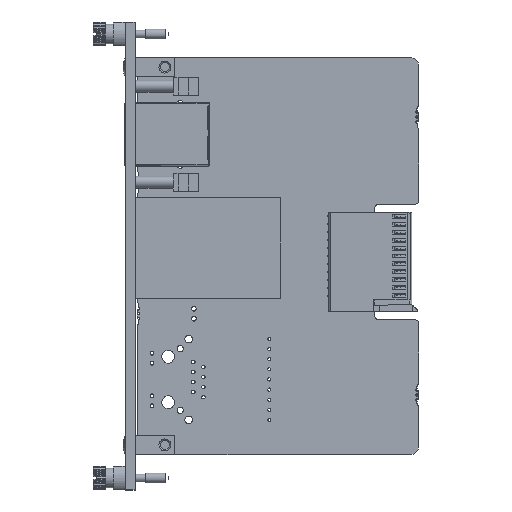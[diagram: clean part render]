
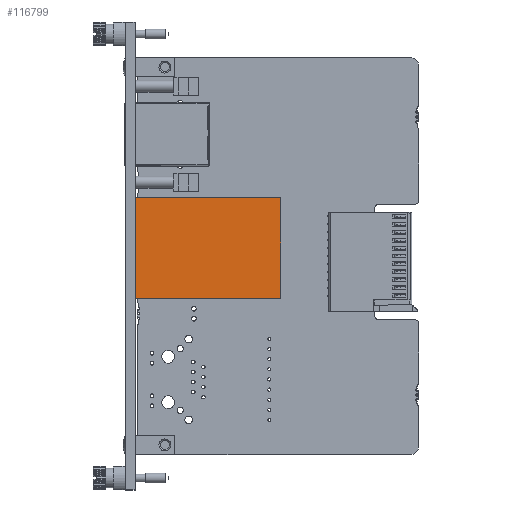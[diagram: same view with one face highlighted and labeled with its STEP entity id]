
A CAD part, top view. The second image highlights one B-rep face of the part: STEP entity #116799.
In plain terms, the highlighted planar face has unit normal (0, 0, 1).
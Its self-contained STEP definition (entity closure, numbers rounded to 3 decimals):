
#2264=PLANE('',#124589);
#7077=FACE_OUTER_BOUND('',#13235,.T.);
#13235=EDGE_LOOP('',(#86968,#86969,#86970,#86971));
#25315=LINE('',#178645,#37528);
#25318=LINE('',#178651,#37531);
#25321=LINE('',#178656,#37534);
#25326=LINE('',#178663,#37539);
#37528=VECTOR('',#143050,10.);
#37531=VECTOR('',#143055,10.);
#37534=VECTOR('',#143060,10.);
#37539=VECTOR('',#143067,10.);
#50385=VERTEX_POINT('',#178642);
#50386=VERTEX_POINT('',#178644);
#50388=VERTEX_POINT('',#178650);
#50389=VERTEX_POINT('',#178655);
#63639=EDGE_CURVE('',#50386,#50385,#25315,.T.);
#63642=EDGE_CURVE('',#50388,#50386,#25318,.T.);
#63645=EDGE_CURVE('',#50389,#50388,#25321,.T.);
#63650=EDGE_CURVE('',#50385,#50389,#25326,.T.);
#86968=ORIENTED_EDGE('',*,*,#63650,.T.);
#86969=ORIENTED_EDGE('',*,*,#63645,.T.);
#86970=ORIENTED_EDGE('',*,*,#63642,.T.);
#86971=ORIENTED_EDGE('',*,*,#63639,.T.);
#116799=ADVANCED_FACE('',(#7077),#2264,.T.);
#124589=AXIS2_PLACEMENT_3D('',#178665,#143070,#143071);
#143050=DIRECTION('',(0.,-1.,0.));
#143055=DIRECTION('',(-1.,0.,0.));
#143060=DIRECTION('',(0.,1.,0.));
#143067=DIRECTION('',(1.,0.,0.));
#143070=DIRECTION('center_axis',(0.,0.,
1.));
#143071=DIRECTION('ref_axis',(1.,0.,0.));
#178642=CARTESIAN_POINT('',(-38.33,-10.704,11.9));
#178644=CARTESIAN_POINT('',(-38.33,14.696,11.9));
#178645=CARTESIAN_POINT('',(-38.33,-10.704,11.9));
#178650=CARTESIAN_POINT('',(0.79,14.696,11.9));
#178651=CARTESIAN_POINT('',(-38.33,14.696,11.9));
#178655=CARTESIAN_POINT('',(0.79,-10.704,11.9));
#178656=CARTESIAN_POINT('',(0.79,14.696,11.9));
#178663=CARTESIAN_POINT('',(0.79,-10.704,11.9));
#178665=CARTESIAN_POINT('Origin',(-18.77,1.996,11.9));
